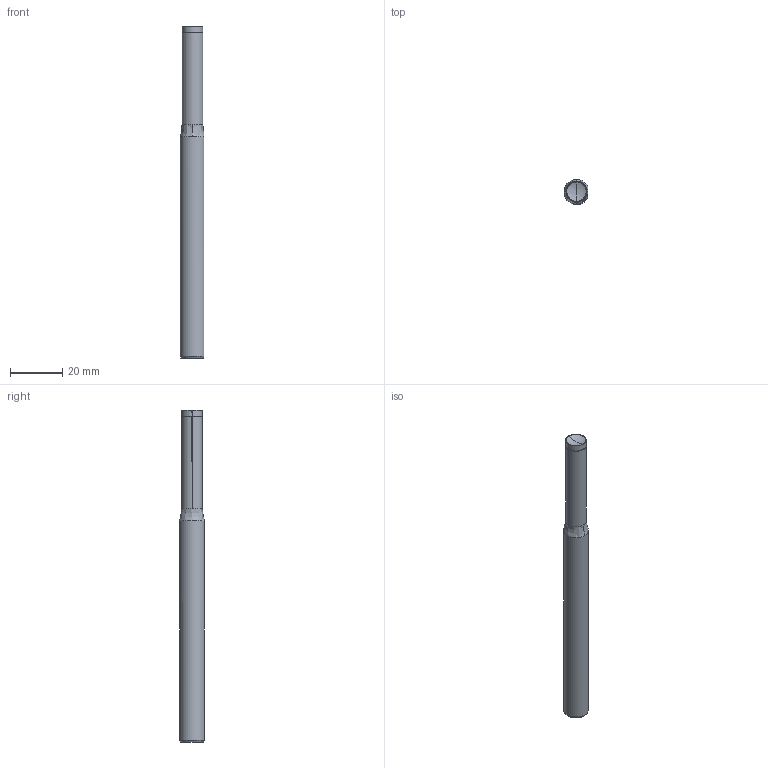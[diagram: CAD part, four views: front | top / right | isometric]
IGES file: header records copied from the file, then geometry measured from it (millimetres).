
Start section: SolidWorks IGES file using analytic representation for surfaces
Global section: file name: C:\Users\IanO\Desktop\SE0508_v2\SE0508_v2_20231218_IGES\SE0508.080-C.igs; native system: SolidWorks 2019; preprocessor: SolidWorks 2019; author: IanO; date: 231218.131325; units: millimetre
Bounding box: 9.16 x 9.53 x 127 mm (x, y, z)
Surface area: 3713.3 mm2 (no closed solid volume)
Topology: 0 solids, 0 shells, 15 faces, 238 edges, 238 vertices
Faces by surface type: revolution 9, bspline 6
